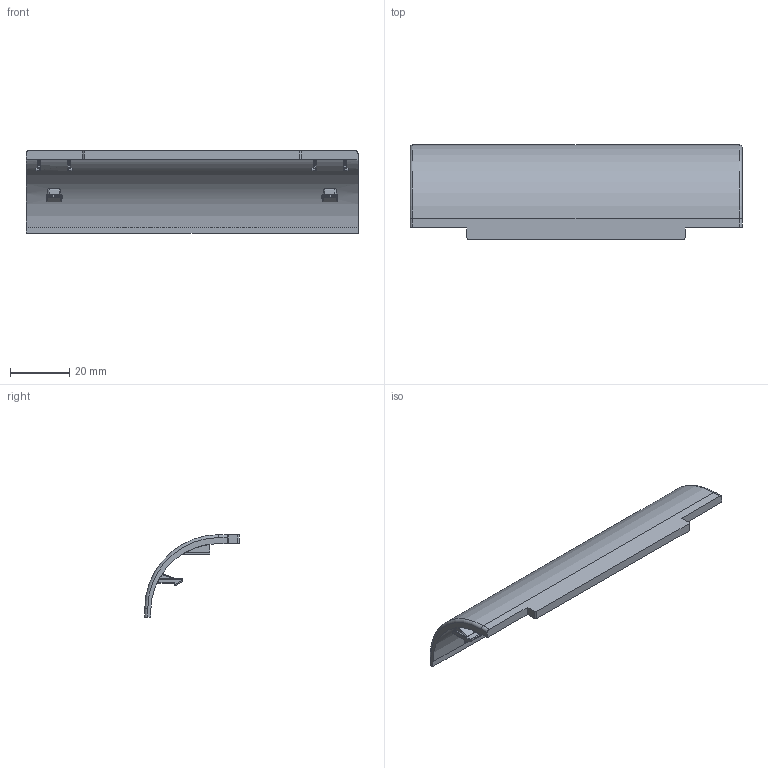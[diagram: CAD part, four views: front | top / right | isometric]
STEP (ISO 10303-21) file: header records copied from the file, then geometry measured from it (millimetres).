
FILE_DESCRIPTION (( 'STEP AP203' ), '1' );
FILE_NAME ('084.506.005N.STEP', '2018-02-26T15:39:04', ( '' ), ( '' ), 'SwSTEP 2.0', 'SolidWorks 2016', '' );
FILE_SCHEMA (( 'CONFIG_CONTROL_DESIGN' ));
Length unit declared in the file: millimetre
Products named in the file (1): 084.506.005N
Bounding box: 112.5 x 32 x 28 mm (x, y, z)
Volume: 13881.3 mm3; surface area: 11502 mm2
Topology: 1 solids, 1 shells, 268 faces, 636 edges, 336 vertices
Faces by surface type: cylinder 99, plane 56, bspline 56, torus 37, sphere 20
Entity records: 8644 total; most frequent: CARTESIAN_POINT 3028, ORIENTED_EDGE 1184, DIRECTION 1143, EDGE_CURVE 592, AXIS2_PLACEMENT_3D 462, VERTEX_POINT 332, EDGE_LOOP 274, FACE_OUTER_BOUND 268
